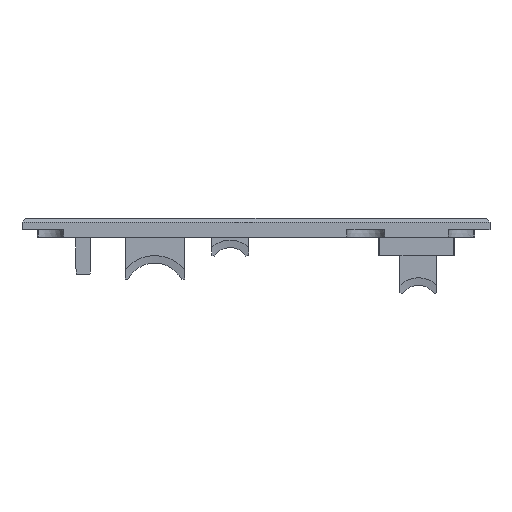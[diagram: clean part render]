
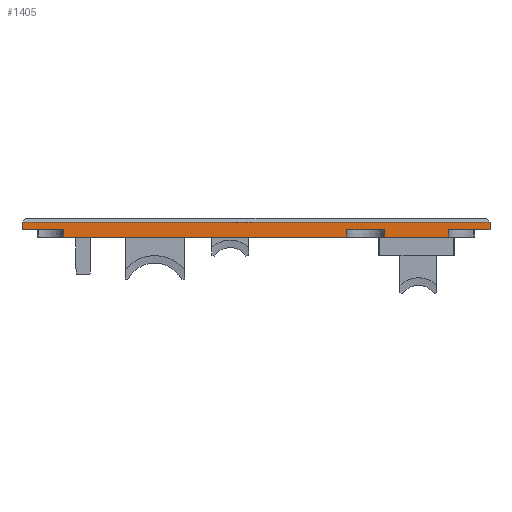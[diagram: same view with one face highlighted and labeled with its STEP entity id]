
A CAD part, front view. The second image highlights one B-rep face of the part: STEP entity #1405.
In plain terms, the highlighted planar face has unit normal (0, -1, 0).
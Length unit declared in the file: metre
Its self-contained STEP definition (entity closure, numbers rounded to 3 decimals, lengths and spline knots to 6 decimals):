
#1405 = ADVANCED_FACE( '', ( #2952 ), #2953, .T. );
#2952 = FACE_OUTER_BOUND( '', #4678, .T. );
#2953 = PLANE( '', #4679 );
#4678 = EDGE_LOOP( '', ( #9166, #9167, #9168, #9169, #9170, #9171, #9172, #9173, #9174, #9175, #9176, #9177 ) );
#4679 = AXIS2_PLACEMENT_3D( '', #9178, #9179, #9180 );
#9166 = ORIENTED_EDGE( '', *, *, #10954, .F. );
#9167 = ORIENTED_EDGE( '', *, *, #10790, .T. );
#9168 = ORIENTED_EDGE( '', *, *, #10975, .T. );
#9169 = ORIENTED_EDGE( '', *, *, #10709, .F. );
#9170 = ORIENTED_EDGE( '', *, *, #10997, .T. );
#9171 = ORIENTED_EDGE( '', *, *, #10447, .T. );
#9172 = ORIENTED_EDGE( '', *, *, #9992, .T. );
#9173 = ORIENTED_EDGE( '', *, *, #10724, .F. );
#9174 = ORIENTED_EDGE( '', *, *, #10806, .T. );
#9175 = ORIENTED_EDGE( '', *, *, #10891, .F. );
#9176 = ORIENTED_EDGE( '', *, *, #10878, .T. );
#9177 = ORIENTED_EDGE( '', *, *, #9787, .F. );
#9178 = CARTESIAN_POINT( '', ( 0.046381, -0.101208, 0.398 ) );
#9179 = DIRECTION( '', ( 0., -1., 0. ) );
#9180 = DIRECTION( '', ( 0., 0., -1. ) );
#9787 = EDGE_CURVE( '', #12073, #12075, #12076, .T. );
#9992 = EDGE_CURVE( '', #12379, #12381, #12383, .T. );
#10447 = EDGE_CURVE( '', #13039, #12379, #13040, .T. );
#10709 = EDGE_CURVE( '', #13392, #13394, #13395, .T. );
#10724 = EDGE_CURVE( '', #13416, #12381, #13418, .T. );
#10790 = EDGE_CURVE( '', #13491, #13476, #13493, .T. );
#10806 = EDGE_CURVE( '', #13416, #13510, #13512, .F. );
#10878 = EDGE_CURVE( '', #13587, #12075, #13588, .T. );
#10891 = EDGE_CURVE( '', #13587, #13510, #13601, .T. );
#10954 = EDGE_CURVE( '', #13491, #12073, #13670, .T. );
#10975 = EDGE_CURVE( '', #13476, #13394, #13691, .T. );
#10997 = EDGE_CURVE( '', #13392, #13039, #13713, .F. );
#12073 = VERTEX_POINT( '', #15460 );
#12075 = VERTEX_POINT( '', #15463 );
#12076 = LINE( '', #15464, #15465 );
#12379 = VERTEX_POINT( '', #16081 );
#12381 = VERTEX_POINT( '', #16084 );
#12383 = LINE( '', #16087, #16088 );
#13039 = VERTEX_POINT( '', #17328 );
#13040 = LINE( '', #17329, #17330 );
#13392 = VERTEX_POINT( '', #18125 );
#13394 = VERTEX_POINT( '', #18128 );
#13395 = LINE( '', #18129, #18130 );
#13416 = VERTEX_POINT( '', #18235 );
#13418 = LINE( '', #18238, #18239 );
#13476 = VERTEX_POINT( '', #18319 );
#13491 = VERTEX_POINT( '', #18342 );
#13493 = LINE( '', #18345, #18346 );
#13510 = VERTEX_POINT( '', #18368 );
#13512 = LINE( '', #18371, #18372 );
#13587 = VERTEX_POINT( '', #18493 );
#13588 = LINE( '', #18494, #18495 );
#13601 = LINE( '', #18514, #18515 );
#13670 = LINE( '', #18605, #18606 );
#13691 = LINE( '', #18632, #18633 );
#13713 = LINE( '', #18662, #18663 );
#15460 = CARTESIAN_POINT( '', ( 0.065881, -0.101208, 0.398 ) );
#15463 = CARTESIAN_POINT( '', ( 0.054881, -0.101208, 0.398 ) );
#15464 = CARTESIAN_POINT( '', ( -0.009744, -0.101208, 0.398 ) );
#15465 = VECTOR( '', #19247, 1. );
#16081 = CARTESIAN_POINT( '', ( 0.027881, -0.101208, 0.396 ) );
#16084 = CARTESIAN_POINT( '', ( 0.027881, -0.101208, 0.398 ) );
#16087 = CARTESIAN_POINT( '', ( 0.027881, -0.101208, 0.395998 ) );
#16088 = VECTOR( '', #19405, 1. );
#17328 = CARTESIAN_POINT( '', ( -0.047264, -0.101208, 0.396 ) );
#17329 = CARTESIAN_POINT( '', ( -0.009744, -0.101208, 0.396 ) );
#17330 = VECTOR( '', #19773, 1. );
#18125 = CARTESIAN_POINT( '', ( -0.047369, -0.101208, 0.398 ) );
#18128 = CARTESIAN_POINT( '', ( -0.058369, -0.101208, 0.398 ) );
#18129 = CARTESIAN_POINT( '', ( -0.009744, -0.101208, 0.398 ) );
#18130 = VECTOR( '', #20000, 1. );
#18235 = CARTESIAN_POINT( '', ( 0.037881, -0.101208, 0.398 ) );
#18238 = CARTESIAN_POINT( '', ( -0.009744, -0.101208, 0.398 ) );
#18239 = VECTOR( '', #20023, 1. );
#18319 = CARTESIAN_POINT( '', ( -0.058369, -0.101208, 0.4 ) );
#18342 = CARTESIAN_POINT( '', ( 0.065881, -0.101208, 0.4 ) );
#18345 = CARTESIAN_POINT( '', ( 0.046381, -0.101208, 0.4 ) );
#18346 = VECTOR( '', #20061, 1. );
#18368 = CARTESIAN_POINT( '', ( 0.037986, -0.101208, 0.396 ) );
#18371 = CARTESIAN_POINT( '', ( 0.037905, -0.101208, 0.397556 ) );
#18372 = VECTOR( '', #20071, 1. );
#18493 = CARTESIAN_POINT( '', ( 0.054776, -0.101208, 0.396 ) );
#18494 = CARTESIAN_POINT( '', ( 0.054858, -0.101208, 0.397556 ) );
#18495 = VECTOR( '', #20111, 1. );
#18514 = CARTESIAN_POINT( '', ( 0.046381, -0.101208, 0.396 ) );
#18515 = VECTOR( '', #20115, 1. );
#18605 = CARTESIAN_POINT( '', ( 0.065881, -0.101208, 0.401 ) );
#18606 = VECTOR( '', #20152, 1. );
#18632 = CARTESIAN_POINT( '', ( -0.058369, -0.101208, 0.401 ) );
#18633 = VECTOR( '', #20158, 1. );
#18662 = CARTESIAN_POINT( '', ( -0.047112, -0.101208, 0.3931 ) );
#18663 = VECTOR( '', #20163, 1. );
#19247 = DIRECTION( '', ( -1., 0., 0. ) );
#19405 = DIRECTION( '', ( 0., 0., 1. ) );
#19773 = DIRECTION( '', ( 1., 0., 0. ) );
#20000 = DIRECTION( '', ( -1., 0., 0. ) );
#20023 = DIRECTION( '', ( -1., 0., 0. ) );
#20061 = DIRECTION( '', ( -1., 0., 0. ) );
#20071 = DIRECTION( '', ( -0.052, 0., 0.999 ) );
#20111 = DIRECTION( '', ( 0.052, 0., 0.999 ) );
#20115 = DIRECTION( '', ( -1., 0., 0. ) );
#20152 = DIRECTION( '', ( 0., 0., -1. ) );
#20158 = DIRECTION( '', ( 0., 0., -1. ) );
#20163 = DIRECTION( '', ( -0.052, 0., 0.999 ) );
